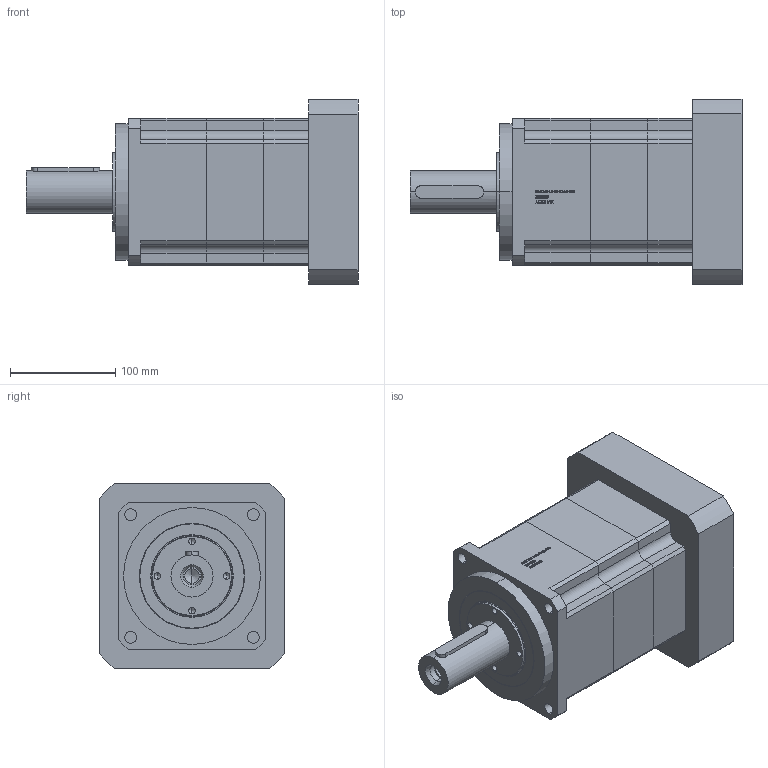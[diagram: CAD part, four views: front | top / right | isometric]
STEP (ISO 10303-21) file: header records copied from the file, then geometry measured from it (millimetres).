
FILE_DESCRIPTION (( 'STEP AP203' ), '1' );
FILE_NAME ('PAG140-L2-35-114.3-200.STEP', '2022-07-18T08:51:03', ( 'Windows User' ), ( 'P R C' ), 'SwSTEP 2.0', 'SolidWorks 2016', '' );
FILE_SCHEMA (( 'CONFIG_CONTROL_DESIGN' ));
Length unit declared in the file: millimetre
Products named in the file (9): PAG140狟裔啣; PAG140 蟀諉啣 176選 114.3x10 200xM8 47L; 邧埴瑩 12x8x65; TC75-100-10_TC-34.9-55-7; TC70-95-8_TC-34.9-55-7; 囀鞠褒蹟佪-M10℅30; PAG140-L2-35-114.3-200; PAG140奻裔啣; PAG140二级齿圈
Assembly tree (8 placements, depth 2):
  PAG140-L2-35-114.3-200
    PAG140奻裔啣
    PAG140二级齿圈
    PAG140狟裔啣
    PAG140 蟀諉啣 176選 114.3x10 200xM8 47L
    邧埴瑩 12x8x65
    TC75-100-10_TC-34.9-55-7
    TC70-95-8_TC-34.9-55-7
    囀鞠褒蹟佪-M10℅30
Bounding box: 315.5 x 176 x 176 mm (x, y, z)
Volume: 4435192.1 mm3; surface area: 410139.8 mm2
Topology: 8 solids, 8 shells, 981 faces, 2570 edges, 1682 vertices
Faces by surface type: plane 566, cylinder 179, bspline 162, cone 42, torus 32
Entity records: 37806 total; most frequent: CARTESIAN_POINT 13376, ORIENTED_EDGE 5104, DIRECTION 4355, EDGE_CURVE 2552, LINE 1741, VECTOR 1741, VERTEX_POINT 1682, AXIS2_PLACEMENT_3D 1307
